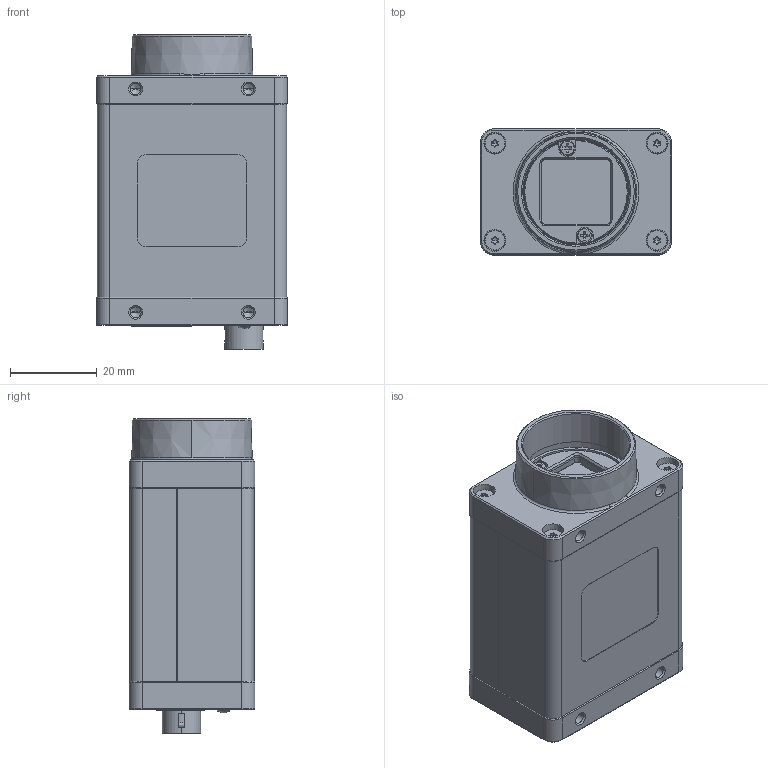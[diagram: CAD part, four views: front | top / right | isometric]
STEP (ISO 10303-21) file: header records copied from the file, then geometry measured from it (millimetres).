
FILE_DESCRIPTION((''),'2;1');
FILE_NAME('DH3-1798-6056_1','2023-11-24T14:26:53',('21511'),(''),'CREO PARAMETRIC BY PTC INC, 2020184','CREO PARAMETRIC BY PTC INC, 2020184','');
FILE_SCHEMA(('CONFIG_CONTROL_DESIGN','SHAPE_APPEARANCE_LAYERS_GROUPS'));
Products named in the file (1): DH3-1798-6056_1
Bounding box: 44 x 29 x 72.5 mm (x, y, z)
Volume: 69783.4 mm3; surface area: 17144.6 mm2
Topology: 1 solids, 5 shells, 1436 faces, 4070 edges, 2640 vertices
Faces by surface type: plane 784, cylinder 421, cone 158, torus 45, bspline 18, extrusion 6, sphere 4
Entity records: 64147 total; most frequent: CARTESIAN_POINT 9718, ORIENTED_EDGE 8060, DIRECTION 8011, PRESENTATION_STYLE_ASSIGNMENT 4586, STYLED_ITEM 4045, CURVE_STYLE 4036, EDGE_CURVE 4030, AXIS2_PLACEMENT_3D 2758
